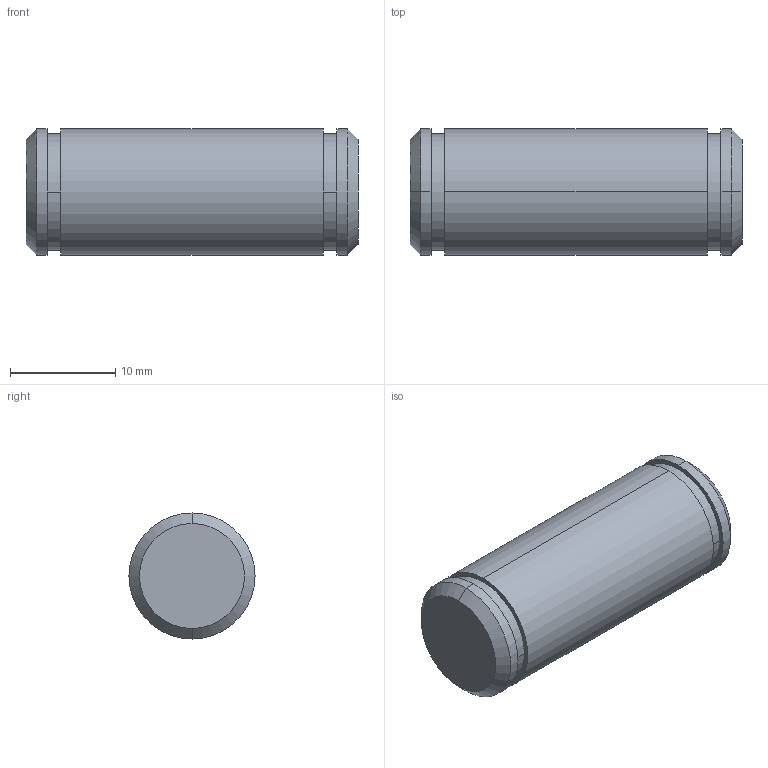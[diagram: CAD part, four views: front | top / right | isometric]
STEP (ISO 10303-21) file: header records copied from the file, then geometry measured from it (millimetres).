
FILE_DESCRIPTION (( 'STEP AP203' ), '1' );
FILE_NAME ('Bolzen Sicherungsring B.STEP', '2018-02-22T05:36:26', ( 'install' ), ( 'Hewlett-Packard Company' ), 'SwSTEP 2.0', 'SolidWorks 2017', '' );
FILE_SCHEMA (( 'CONFIG_CONTROL_DESIGN' ));
Length unit declared in the file: millimetre
Products named in the file (1): Bolzen Sicherungsring B
Bounding box: 31.6 x 12 x 12 mm (x, y, z)
Volume: 3495.8 mm3; surface area: 1428.7 mm2
Topology: 1 solids, 1 shells, 20 faces, 38 edges, 24 vertices
Faces by surface type: cylinder 10, plane 6, cone 4
Entity records: 591 total; most frequent: DIRECTION 104, CARTESIAN_POINT 83, ORIENTED_EDGE 76, AXIS2_PLACEMENT_3D 45, EDGE_CURVE 38, EDGE_LOOP 24, CIRCLE 24, VERTEX_POINT 24
